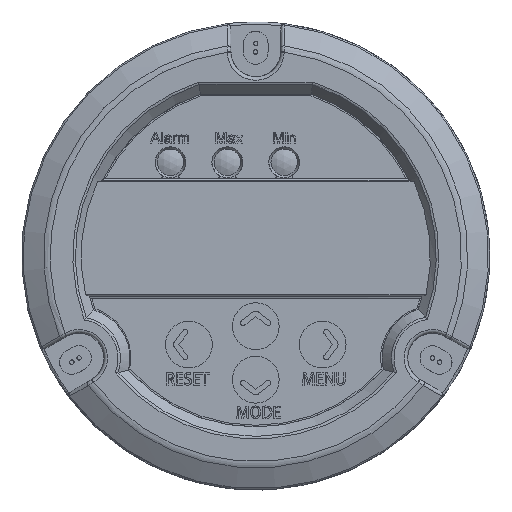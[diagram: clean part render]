
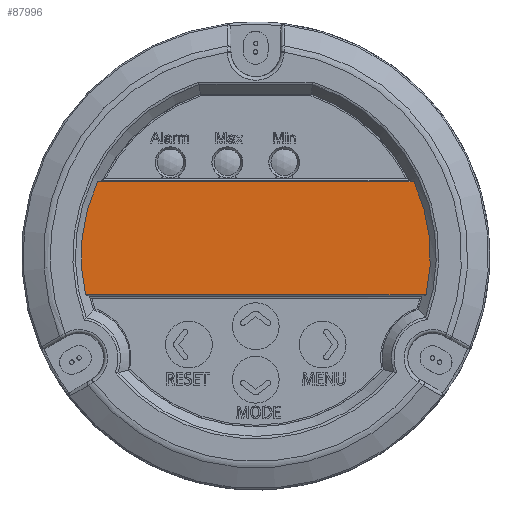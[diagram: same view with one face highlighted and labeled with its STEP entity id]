
A CAD part, top view. The second image highlights one B-rep face of the part: STEP entity #87996.
In plain terms, the highlighted planar face has unit normal (0, 0, 1).
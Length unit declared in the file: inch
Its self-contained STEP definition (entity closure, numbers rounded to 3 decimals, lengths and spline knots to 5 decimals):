
#2729 = AXIS2_PLACEMENT_3D ( 'NONE', #41585, #41277, #48179 ) ;
#3572 = CARTESIAN_POINT ( 'NONE',  ( -1.05815, 0.13995, 0.26193 ) ) ;
#5225 = EDGE_LOOP ( 'NONE', ( #78357, #92601, #61501, #74914 ) ) ;
#7577 = LINE ( 'NONE', #24895, #90558 ) ;
#14692 = CIRCLE ( 'NONE', #51342, 1.04448 ) ;
#15105 = CARTESIAN_POINT ( 'NONE',  ( -1.16341, 0.13995, 0.26193 ) ) ;
#20912 = VERTEX_POINT ( 'NONE', #82301 ) ;
#24062 = EDGE_CURVE ( 'NONE', #52161, #20912, #69312, .T. ) ;
#24580 = DIRECTION ( 'NONE',  ( -1., 0., 0. ) ) ;
#24895 = CARTESIAN_POINT ( 'NONE',  ( -1.09598, 0.81448, 0.26193 ) ) ;
#26947 = PLANE ( 'NONE',  #85838 ) ;
#27571 = CARTESIAN_POINT ( 'NONE',  ( -0.03982, 0.37222, 0.26193 ) ) ;
#29926 = DIRECTION ( 'NONE',  ( 1., 0., 0. ) ) ;
#31855 = LINE ( 'NONE', #15105, #86747 ) ;
#34220 = DIRECTION ( 'NONE',  ( 0., 0., 1. ) ) ;
#35648 = EDGE_CURVE ( 'NONE', #40283, #35918, #14692, .T. ) ;
#35918 = VERTEX_POINT ( 'NONE', #3572 ) ;
#40283 = VERTEX_POINT ( 'NONE', #49265 ) ;
#41277 = DIRECTION ( 'NONE',  ( 0., 0., 1. ) ) ;
#41585 = CARTESIAN_POINT ( 'NONE',  ( -0.03982, 0.37222, 0.26193 ) ) ;
#44429 = DIRECTION ( 'NONE',  ( 1., 0., 0. ) ) ;
#44519 = CARTESIAN_POINT ( 'NONE',  ( 0.97852, 0.13995, 0.26193 ) ) ;
#48179 = DIRECTION ( 'NONE',  ( 1., 0., 0. ) ) ;
#49265 = CARTESIAN_POINT ( 'NONE',  ( -0.98604, 0.81448, 0.26193 ) ) ;
#51342 = AXIS2_PLACEMENT_3D ( 'NONE', #65531, #80089, #44429 ) ;
#52161 = VERTEX_POINT ( 'NONE', #44519 ) ;
#61501 = ORIENTED_EDGE ( 'NONE', *, *, #76653, .T. ) ;
#63066 = DIRECTION ( 'NONE',  ( 1., 0., 0. ) ) ;
#65531 = CARTESIAN_POINT ( 'NONE',  ( -0.03982, 0.37222, 0.26193 ) ) ;
#69312 = CIRCLE ( 'NONE', #2729, 1.04448 ) ;
#70706 = EDGE_CURVE ( 'NONE', #20912, #40283, #7577, .T. ) ;
#74914 = ORIENTED_EDGE ( 'NONE', *, *, #24062, .T. ) ;
#76653 = EDGE_CURVE ( 'NONE', #35918, #52161, #31855, .T. ) ;
#78357 = ORIENTED_EDGE ( 'NONE', *, *, #70706, .T. ) ;
#80089 = DIRECTION ( 'NONE',  ( 0., 0., 1. ) ) ;
#82301 = CARTESIAN_POINT ( 'NONE',  ( 0.90641, 0.81448, 0.26193 ) ) ;
#85838 = AXIS2_PLACEMENT_3D ( 'NONE', #27571, #34220, #63066 ) ;
#86747 = VECTOR ( 'NONE', #29926, 39.37008 ) ;
#87996 = ADVANCED_FACE ( 'NONE', ( #89572 ), #26947, .T. ) ;
#89572 = FACE_OUTER_BOUND ( 'NONE', #5225, .T. ) ;
#90558 = VECTOR ( 'NONE', #24580, 39.37008 ) ;
#92601 = ORIENTED_EDGE ( 'NONE', *, *, #35648, .T. ) ;
